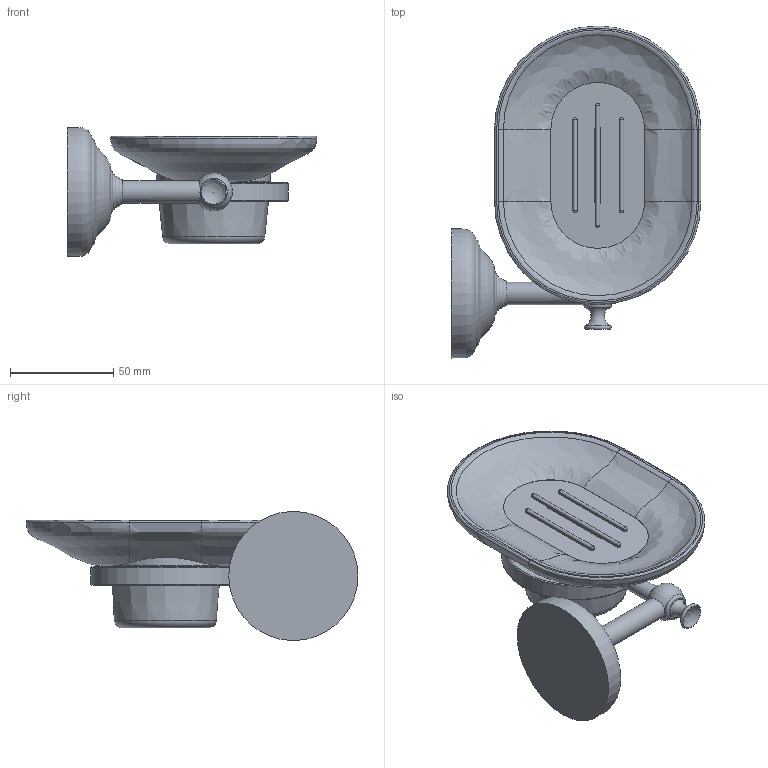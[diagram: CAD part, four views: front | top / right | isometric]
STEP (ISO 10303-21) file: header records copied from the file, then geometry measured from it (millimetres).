
FILE_DESCRIPTION(('STEP AP242'), '1');
FILE_NAME('88CR021BI', '', ('UNSPECIFIED'), ('UNSPECIFIED'), 'ASCON STEP Converter 1.6', 'ASCON Math Kernel', '');
FILE_SCHEMA(('AP242_MANAGED_MODEL_BASED_3D_ENGINEERING_MIM_LF { 1 0 10303 442 1 1 4 }'));
Length unit declared in the file: millimetre
Assembly tree (2 placements, depth 2):
  (unnamed)
    (unnamed)
    (unnamed)
Bounding box: 120.98 x 160.75 x 62.55 mm (x, y, z)
Volume: 139624.6 mm3; surface area: 77663.4 mm2
Topology: 2 solids, 3 shells, 98 faces, 219 edges, 130 vertices
Faces by surface type: plane 28, cylinder 26, torus 17, revolution 9, extrusion 8, sphere 6, bspline 2, cone 2
Full cylindrical faces by diameter (mm): 8.256 x1, 10.845 x1, 55 x1, 60 x1
Entity records: 5679 total; most frequent: CARTESIAN_POINT 2676, DIRECTION 435, ORIENTED_EDGE 392, EDGE_CURVE 196, AXIS2_PLACEMENT_3D 181, VERTEX_POINT 129, EDGE_LOOP 125, COLOUR_RGB 100
